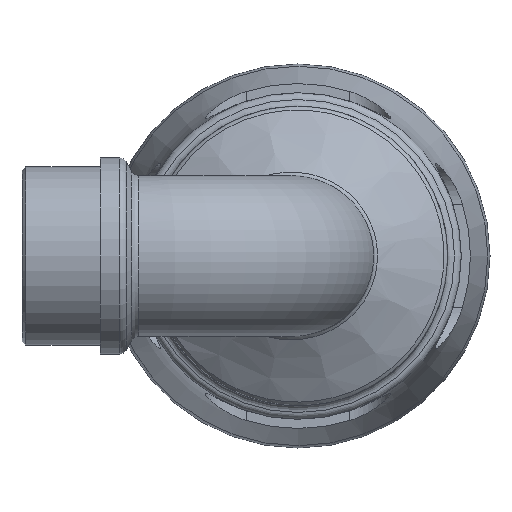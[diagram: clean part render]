
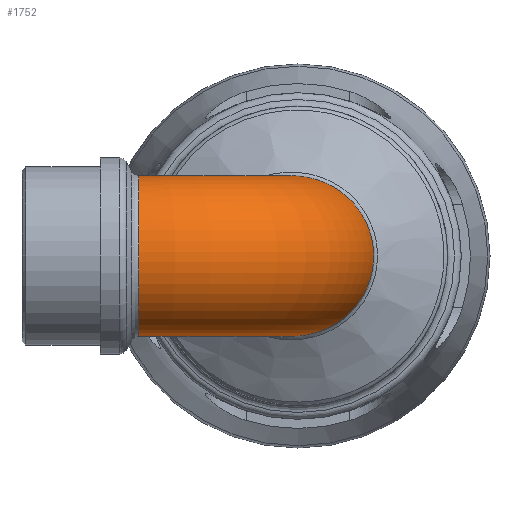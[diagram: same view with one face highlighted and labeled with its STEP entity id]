
A CAD part, left-side view. The second image highlights one B-rep face of the part: STEP entity #1752.
In plain terms, the highlighted toroidal (fillet/blend) face has major radius 42.752 mm and minor radius 21.511 mm.
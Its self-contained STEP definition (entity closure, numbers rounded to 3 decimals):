
#277=B_SPLINE_CURVE_WITH_KNOTS('',3,(#2657,#2658,#2659,#2660,#2661,#2662,
#2663,#2664,#2665,#2666,#2667,#2668,#2669,#2670,#2671,#2672,#2673),
 .UNSPECIFIED.,.T.,.F.,(4,1,1,1,1,1,1,1,1,1,1,1,1,1,4),(-7.361,
-6.309,-5.258,-4.206,-3.155,
-2.103,-1.052,0.351,1.052,
2.454,3.155,4.206,5.258,6.309,
7.361),.UNSPECIFIED.);
#278=B_SPLINE_CURVE_WITH_KNOTS('',3,(#2772,#2773,#2774,#2775,#2776,#2777,
#2778,#2779,#2780,#2781,#2782,#2783,#2784,#2785,#2786,#2787,#2788,#2789,
#2790),.UNSPECIFIED.,.T.,.F.,(4,1,1,1,1,1,1,1,1,1,1,1,1,1,1,1,4),(-3.142,
-2.693,-2.244,-1.795,-1.346,
-0.898,-0.449,-0.15,0.15,
0.449,0.748,1.346,1.795,2.244,
2.693,2.917,3.142),.UNSPECIFIED.);
#357=FACE_BOUND('',#508,.T.);
#388=FACE_OUTER_BOUND('',#507,.T.);
#507=EDGE_LOOP('',(#1160));
#508=EDGE_LOOP('',(#1161));
#724=VERTEX_POINT('',#2655);
#726=VERTEX_POINT('',#2770);
#887=EDGE_CURVE('',#724,#724,#277,.T.);
#889=EDGE_CURVE('',#726,#726,#278,.T.);
#1160=ORIENTED_EDGE('',*,*,#889,.F.);
#1161=ORIENTED_EDGE('',*,*,#887,.F.);
#1624=TOROIDAL_SURFACE('',#1873,42.753,21.511);
#1752=ADVANCED_FACE('',(#388,#357),#1624,.T.);
#1873=AXIS2_PLACEMENT_3D('',#3037,#2098,#2099);
#2098=DIRECTION('center_axis',(0.,0.,1.));
#2099=DIRECTION('ref_axis',(1.,0.,0.));
#2655=CARTESIAN_POINT('',(21.511,42.751,-0.017));
#2657=CARTESIAN_POINT('Ctrl Pts',(21.512,42.751,-0.019));
#2658=CARTESIAN_POINT('Ctrl Pts',(21.51,42.751,-3.228));
#2659=CARTESIAN_POINT('Ctrl Pts',(20.035,42.751,-9.681));
#2660=CARTESIAN_POINT('Ctrl Pts',(13.847,42.751,-17.41));
#2661=CARTESIAN_POINT('Ctrl Pts',(4.926,42.751,-21.696));
#2662=CARTESIAN_POINT('Ctrl Pts',(-4.985,42.751,-21.681));
#2663=CARTESIAN_POINT('Ctrl Pts',(-13.895,42.751,-17.374));
#2664=CARTESIAN_POINT('Ctrl Pts',(-20.757,42.751,-8.746));
#2665=CARTESIAN_POINT('Ctrl Pts',(-22.236,42.751,1.162));
#2666=CARTESIAN_POINT('Ctrl Pts',(-19.037,42.751,11.569));
#2667=CARTESIAN_POINT('Ctrl Pts',(-12.941,42.751,18.125));
#2668=CARTESIAN_POINT('Ctrl Pts',(-3.836,42.751,21.685));
#2669=CARTESIAN_POINT('Ctrl Pts',(4.96,42.751,21.689));
#2670=CARTESIAN_POINT('Ctrl Pts',(13.882,42.751,17.382));
#2671=CARTESIAN_POINT('Ctrl Pts',(20.054,42.751,9.64));
#2672=CARTESIAN_POINT('Ctrl Pts',(21.515,42.751,3.191));
#2673=CARTESIAN_POINT('Ctrl Pts',(21.512,42.751,-0.019));
#2770=CARTESIAN_POINT('',(30.01,25.758,0.));
#2772=CARTESIAN_POINT('Ctrl Pts',(30.011,25.762,0.002));
#2773=CARTESIAN_POINT('Ctrl Pts',(30.01,25.758,3.302));
#2774=CARTESIAN_POINT('Ctrl Pts',(29.962,23.79,9.868));
#2775=CARTESIAN_POINT('Ctrl Pts',(29.975,16.709,17.356));
#2776=CARTESIAN_POINT('Ctrl Pts',(30.118,7.386,21.58));
#2777=CARTESIAN_POINT('Ctrl Pts',(30.273,-2.828,21.781));
#2778=CARTESIAN_POINT('Ctrl Pts',(30.393,-12.162,17.685));
#2779=CARTESIAN_POINT('Ctrl Pts',(30.456,-18.013,10.771));
#2780=CARTESIAN_POINT('Ctrl Pts',(30.48,-20.413,3.345));
#2781=CARTESIAN_POINT('Ctrl Pts',(30.48,-20.415,-3.346));
#2782=CARTESIAN_POINT('Ctrl Pts',(30.459,-18.35,-9.702));
#2783=CARTESIAN_POINT('Ctrl Pts',(30.404,-13.141,-16.964));
#2784=CARTESIAN_POINT('Ctrl Pts',(30.291,-3.966,-21.818));
#2785=CARTESIAN_POINT('Ctrl Pts',(30.118,7.385,-21.572));
#2786=CARTESIAN_POINT('Ctrl Pts',(29.976,16.712,-17.366));
#2787=CARTESIAN_POINT('Ctrl Pts',(29.963,22.6,-11.105));
#2788=CARTESIAN_POINT('Ctrl Pts',(30.,25.277,-4.957));
#2789=CARTESIAN_POINT('Ctrl Pts',(30.011,25.763,-1.648));
#2790=CARTESIAN_POINT('Ctrl Pts',(30.011,25.762,0.002));
#3037=CARTESIAN_POINT('Origin',(42.753,42.753,0.));
